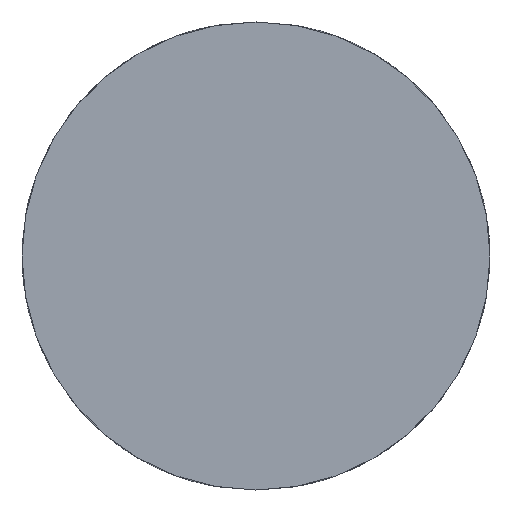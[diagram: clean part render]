
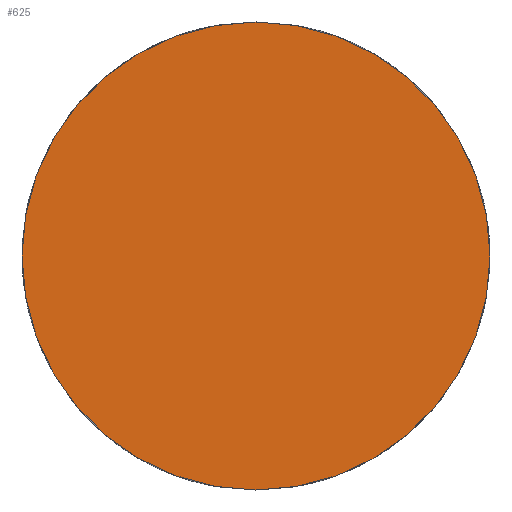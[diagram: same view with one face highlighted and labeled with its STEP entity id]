
A CAD part, front view. The second image highlights one B-rep face of the part: STEP entity #625.
In plain terms, the highlighted planar face has unit normal (0, -1, 0).
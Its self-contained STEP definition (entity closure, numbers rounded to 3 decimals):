
#56 = EDGE_CURVE ( 'NONE', #1161, #2291, #1610, .T. ) ;
#62 = DIRECTION ( 'NONE',  ( 0., 0., 1. ) ) ;
#90 = FACE_OUTER_BOUND ( 'NONE', #828, .T. ) ;
#182 = CARTESIAN_POINT ( 'NONE',  ( 0., 0., 5.5 ) ) ;
#388 = DIRECTION ( 'NONE',  ( 0., 0., 1. ) ) ;
#500 = AXIS2_PLACEMENT_3D ( 'NONE', #1513, #2352, #62 ) ;
#625 = ADVANCED_FACE ( 'NONE', ( #90 ), #2241, .F. ) ;
#828 = EDGE_LOOP ( 'NONE', ( #1069, #2331 ) ) ;
#1069 = ORIENTED_EDGE ( 'NONE', *, *, #1999, .F. ) ;
#1161 = VERTEX_POINT ( 'NONE', #182 ) ;
#1228 = DIRECTION ( 'NONE',  ( 0., 1., 0. ) ) ;
#1370 = DIRECTION ( 'NONE',  ( 0., 0., 1. ) ) ;
#1513 = CARTESIAN_POINT ( 'NONE',  ( 0., 0., 0. ) ) ;
#1576 = DIRECTION ( 'NONE',  ( 0., 1., 0. ) ) ;
#1610 = CIRCLE ( 'NONE', #500, 5.5 ) ;
#1677 = CIRCLE ( 'NONE', #2603, 5.5 ) ;
#1999 = EDGE_CURVE ( 'NONE', #2291, #1161, #1677, .T. ) ;
#2162 = CARTESIAN_POINT ( 'NONE',  ( 0., 0., 0. ) ) ;
#2232 = CARTESIAN_POINT ( 'NONE',  ( 0., 0., 0. ) ) ;
#2241 = PLANE ( 'NONE',  #2374 ) ;
#2266 = CARTESIAN_POINT ( 'NONE',  ( 0., 0., -5.5 ) ) ;
#2291 = VERTEX_POINT ( 'NONE', #2266 ) ;
#2331 = ORIENTED_EDGE ( 'NONE', *, *, #56, .F. ) ;
#2352 = DIRECTION ( 'NONE',  ( 0., 1., 0. ) ) ;
#2374 = AXIS2_PLACEMENT_3D ( 'NONE', #2232, #1228, #388 ) ;
#2603 = AXIS2_PLACEMENT_3D ( 'NONE', #2162, #1576, #1370 ) ;
